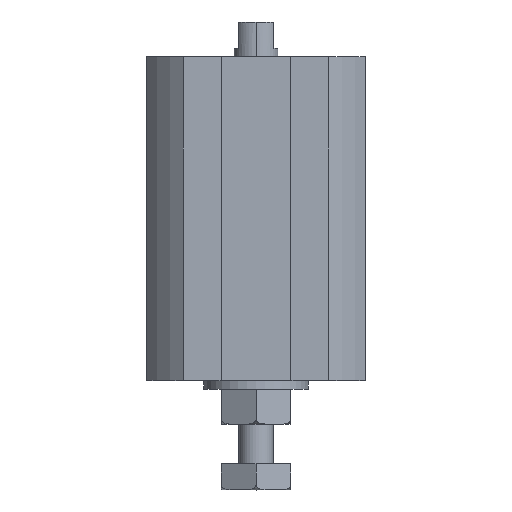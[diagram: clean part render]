
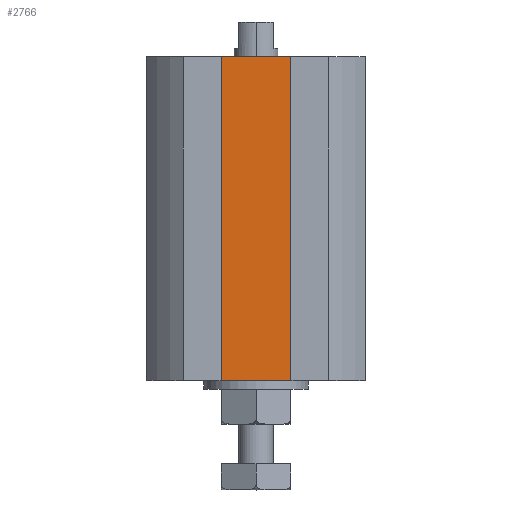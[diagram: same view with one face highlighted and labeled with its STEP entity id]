
A CAD part, top view. The second image highlights one B-rep face of the part: STEP entity #2766.
In plain terms, the highlighted planar face has unit normal (0, 0, 1).
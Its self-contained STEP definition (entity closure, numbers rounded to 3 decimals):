
#36 = EDGE_CURVE ( 'NONE', #3588, #2746, #3679, .T. ) ;
#163 = VECTOR ( 'NONE', #1367, 1000. ) ;
#216 = CARTESIAN_POINT ( 'NONE',  ( 0., -37., 7.8 ) ) ;
#220 = VECTOR ( 'NONE', #2632, 1000. ) ;
#303 = DIRECTION ( 'NONE',  ( 0., 1., 0. ) ) ;
#332 = ORIENTED_EDGE ( 'NONE', *, *, #1601, .T. ) ;
#401 = VECTOR ( 'NONE', #1267, 1000. ) ;
#717 = CARTESIAN_POINT ( 'NONE',  ( 0., 0., 7.8 ) ) ;
#725 = EDGE_CURVE ( 'NONE', #1907, #3588, #965, .T. ) ;
#965 = LINE ( 'NONE', #1529, #220 ) ;
#1073 = DIRECTION ( 'NONE',  ( 0., 0., 1. ) ) ;
#1121 = AXIS2_PLACEMENT_3D ( 'NONE', #1670, #1073, #3627 ) ;
#1220 = VECTOR ( 'NONE', #303, 1000. ) ;
#1267 = DIRECTION ( 'NONE',  ( 1., 0., 0. ) ) ;
#1367 = DIRECTION ( 'NONE',  ( 1., 0., 0. ) ) ;
#1503 = CARTESIAN_POINT ( 'NONE',  ( 4., -37., 7.8 ) ) ;
#1529 = CARTESIAN_POINT ( 'NONE',  ( -4., -37., 7.8 ) ) ;
#1601 = EDGE_CURVE ( 'NONE', #1907, #3516, #2458, .T. ) ;
#1670 = CARTESIAN_POINT ( 'NONE',  ( 0., -37., 7.8 ) ) ;
#1907 = VERTEX_POINT ( 'NONE', #2331 ) ;
#2058 = ORIENTED_EDGE ( 'NONE', *, *, #3489, .T. ) ;
#2249 = PLANE ( 'NONE',  #1121 ) ;
#2271 = ORIENTED_EDGE ( 'NONE', *, *, #36, .F. ) ;
#2314 = ORIENTED_EDGE ( 'NONE', *, *, #725, .F. ) ;
#2331 = CARTESIAN_POINT ( 'NONE',  ( -4., -37., 7.8 ) ) ;
#2347 = CARTESIAN_POINT ( 'NONE',  ( 4., -37., 7.8 ) ) ;
#2458 = LINE ( 'NONE', #216, #163 ) ;
#2632 = DIRECTION ( 'NONE',  ( 0., 1., 0. ) ) ;
#2746 = VERTEX_POINT ( 'NONE', #3330 ) ;
#2766 = ADVANCED_FACE ( 'NONE', ( #3482 ), #2249, .T. ) ;
#3272 = LINE ( 'NONE', #2347, #1220 ) ;
#3330 = CARTESIAN_POINT ( 'NONE',  ( 4., 0., 7.8 ) ) ;
#3482 = FACE_OUTER_BOUND ( 'NONE', #3504, .T. ) ;
#3489 = EDGE_CURVE ( 'NONE', #3516, #2746, #3272, .T. ) ;
#3504 = EDGE_LOOP ( 'NONE', ( #2271, #2314, #332, #2058 ) ) ;
#3516 = VERTEX_POINT ( 'NONE', #1503 ) ;
#3528 = CARTESIAN_POINT ( 'NONE',  ( -4., 0., 7.8 ) ) ;
#3588 = VERTEX_POINT ( 'NONE', #3528 ) ;
#3627 = DIRECTION ( 'NONE',  ( 1., 0., 0. ) ) ;
#3679 = LINE ( 'NONE', #717, #401 ) ;
